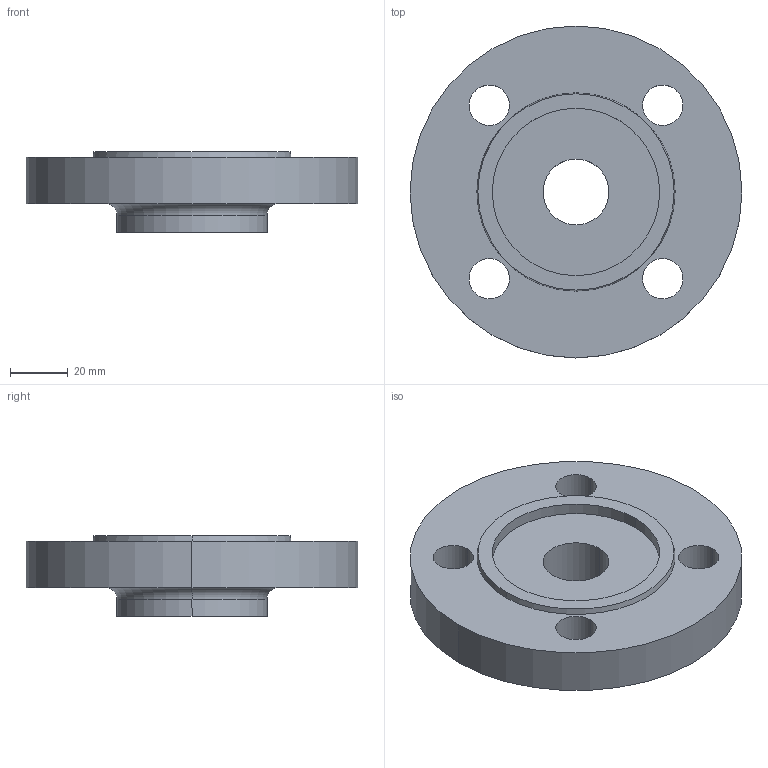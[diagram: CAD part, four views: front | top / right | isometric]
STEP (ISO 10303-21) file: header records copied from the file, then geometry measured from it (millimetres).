
FILE_DESCRIPTION (( 'STEP AP214' ), '1' );
FILE_NAME ('PN40 DN25 Type 13 - Type F Face.STEP', '2018-12-29T20:23:23', ( '' ), ( '' ), 'SwSTEP 2.0', 'SolidWorks 2019', '' );
FILE_SCHEMA (( 'AUTOMOTIVE_DESIGN' ));
Length unit declared in the file: millimetre
Products named in the file (1): PN40 DN25 Type 13 - Type F Face
Bounding box: 115 x 115 x 28 mm (x, y, z)
Volume: 165097.4 mm3; surface area: 31489.8 mm2
Topology: 1 solids, 1 shells, 25 faces, 58 edges, 38 vertices
Faces by surface type: cylinder 16, plane 5, torus 2, cone 2
Entity records: 790 total; most frequent: DIRECTION 150, CARTESIAN_POINT 122, ORIENTED_EDGE 116, AXIS2_PLACEMENT_3D 66, EDGE_CURVE 58, CIRCLE 40, VERTEX_POINT 38, EDGE_LOOP 38
